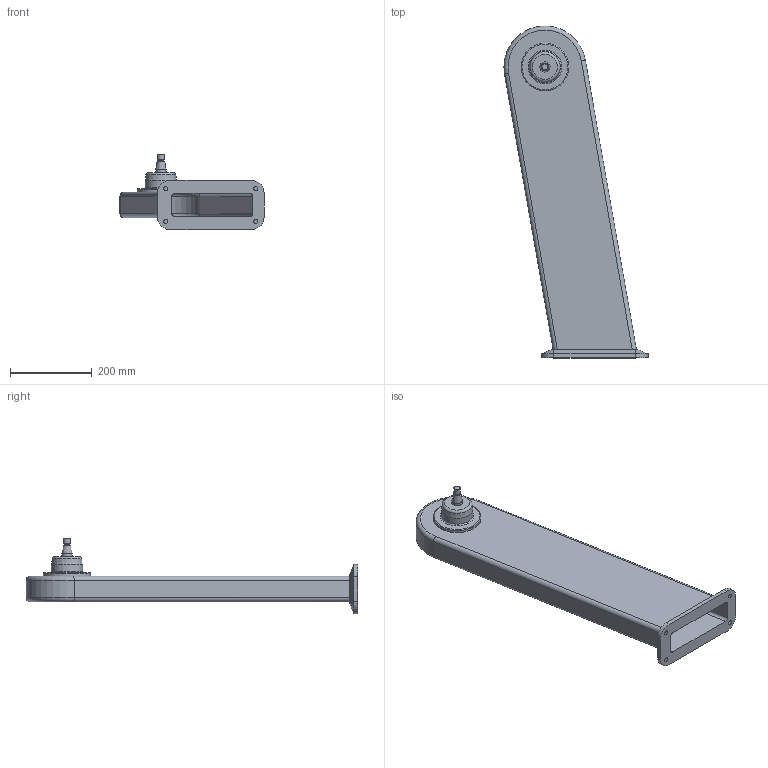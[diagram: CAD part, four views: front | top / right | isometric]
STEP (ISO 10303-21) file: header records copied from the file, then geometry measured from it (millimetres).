
FILE_DESCRIPTION (( 'STEP AP214' ), '1' );
FILE_NAME ('WP800_H710_-10.STEP', '2014-06-26T09:20:28', ( '' ), ( '' ), 'SwSTEP 2.0', 'SolidWorks 2014', '' );
FILE_SCHEMA (( 'AUTOMOTIVE_DESIGN' ));
Length unit declared in the file: millimetre
Products named in the file (1): WP800_H710_-10
Bounding box: 351.67 x 810 x 183.29 mm (x, y, z)
Volume: 1790224.4 mm3; surface area: 865548.6 mm2
Topology: 1 solids, 1 shells, 68 faces, 141 edges, 85 vertices
Faces by surface type: plane 26, cylinder 25, cone 10, torus 7
Full cylindrical faces by diameter (mm): 10 x4, 14.5 x1, 16 x1, 25 x3, 76 x1, 116 x1
Entity records: 1724 total; most frequent: DIRECTION 308, CARTESIAN_POINT 299, ORIENTED_EDGE 242, AXIS2_PLACEMENT_3D 126, EDGE_CURVE 121, EDGE_LOOP 100, VERTEX_POINT 85, FACE_OUTER_BOUND 82
